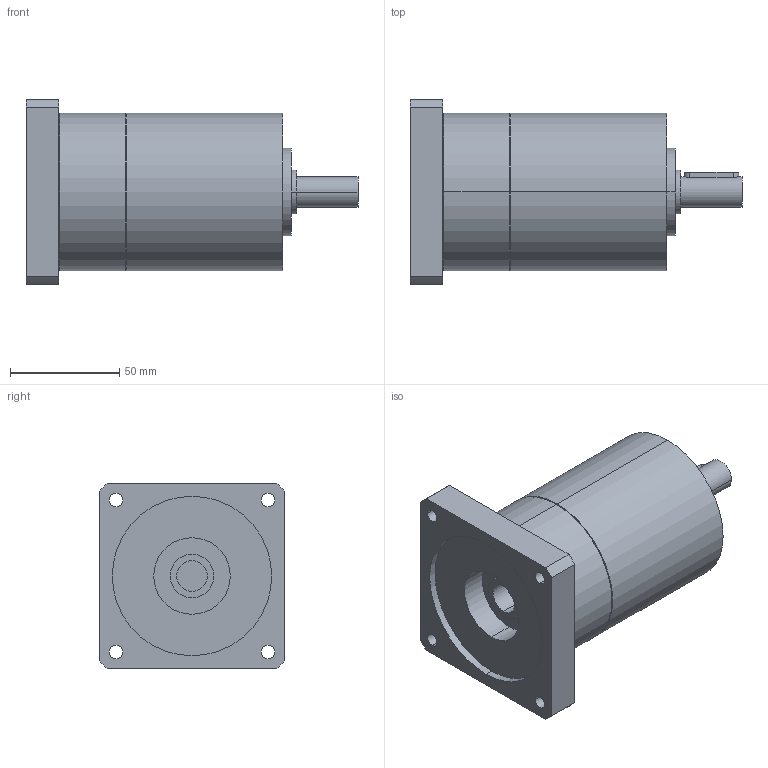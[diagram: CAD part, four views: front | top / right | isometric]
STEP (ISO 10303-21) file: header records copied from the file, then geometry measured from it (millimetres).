
FILE_DESCRIPTION(('CoCreate Modeling STEP Export'),'2;1');
FILE_NAME('GPT75_ig-9-12-16-20-25-28-35-40-50-70-100_14_B14T_14_P36.stp','2014-08-27T13:17:32',(''),(''),'CoCreate Modeling STEP processor for AP214 (Solid Model)','CoCreate Modeling 16.00C 25-Feb-2009 (C) Parametric Technology GmbH','');
FILE_SCHEMA(('AUTOMOTIVE_DESIGN { 1 0 10303 214 1 1 1 1 }'));
Length unit declared in the file: millimetre
Products named in the file (2): GPT75_ig-9-12-16-20-25-28-35-40-50-70-100_14_B14T_14_P36
Assembly tree (1 placements, depth 2):
  GPT75_ig-9-12-16-20-25-28-35-40-50-70-100_14_B14T_14_P36
    GPT75_ig-9-12-16-20-25-28-35-40-50-70-100_14_B14T_14_P36
Bounding box: 152 x 85 x 85 mm (x, y, z)
Volume: 503348.4 mm3; surface area: 50302 mm2
Topology: 1 solids, 1 shells, 69 faces, 166 edges, 113 vertices
Faces by surface type: cylinder 42, plane 23, cone 4
Entity records: 2161 total; most frequent: CARTESIAN_POINT 664, ORIENTED_EDGE 332, DIRECTION 262, EDGE_CURVE 166, VERTEX_POINT 113, AXIS2_PLACEMENT_3D 99, EDGE_LOOP 91, FACE_OUTER_BOUND 69
